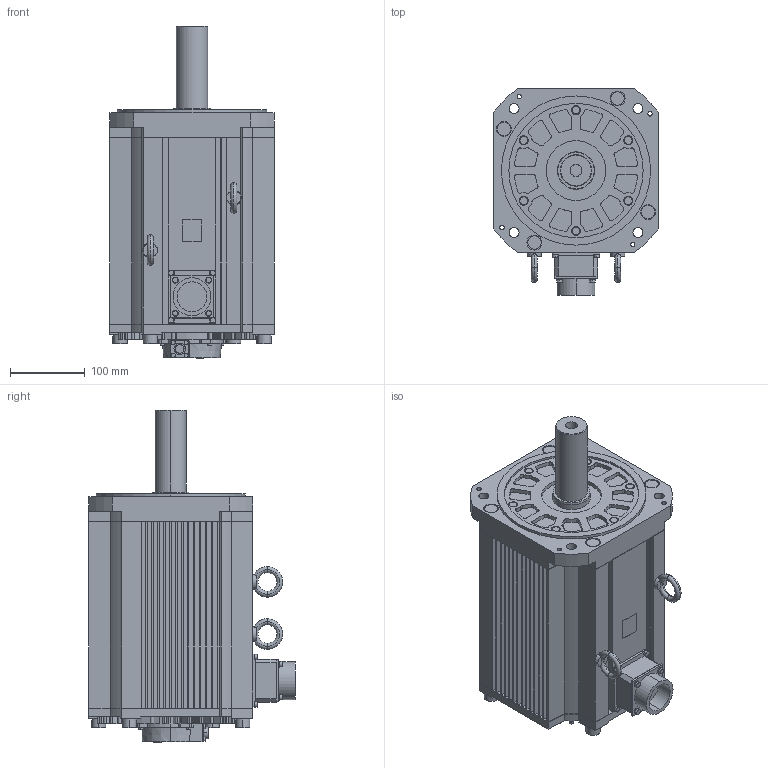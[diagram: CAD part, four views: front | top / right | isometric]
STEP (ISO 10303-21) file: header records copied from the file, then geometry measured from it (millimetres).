
FILE_DESCRIPTION (( 'STEP AP214' ), '1' );
FILE_NAME ('sgmxg_1aaua81a2.STEP', '2022-04-08T00:14:10', ( '' ), ( '' ), 'SwSTEP 2.0', 'SolidWorks 2016', '' );
FILE_SCHEMA (( 'AUTOMOTIVE_DESIGN' ));
Length unit declared in the file: millimetre
Products named in the file (2): sgmxg_1aaua81a2
Bounding box: 220 x 277.06 x 445.2 mm (x, y, z)
Volume: 12406099.4 mm3; surface area: 588470.5 mm2
Topology: 1 solids, 1 shells, 1142 faces, 3069 edges, 2034 vertices
Faces by surface type: plane 678, cylinder 433, torus 20, cone 11
Entity records: 37254 total; most frequent: CARTESIAN_POINT 6468, DIRECTION 6263, ORIENTED_EDGE 6138, EDGE_CURVE 3069, VECTOR 2119, LINE 2119, AXIS2_PLACEMENT_3D 2072, VERTEX_POINT 2034
